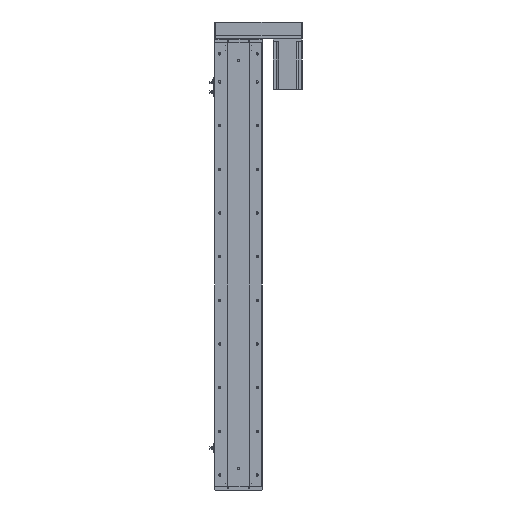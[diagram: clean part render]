
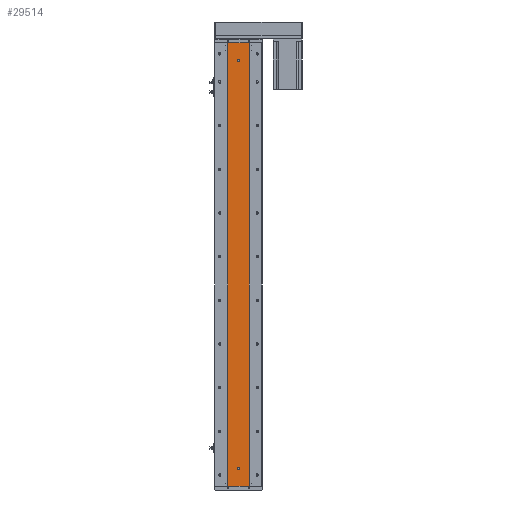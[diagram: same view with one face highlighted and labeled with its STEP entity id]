
A CAD part, left-side view. The second image highlights one B-rep face of the part: STEP entity #29514.
In plain terms, the highlighted planar face has unit normal (-1, 0, 0).
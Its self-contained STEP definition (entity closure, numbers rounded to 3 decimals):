
#791 = AXIS2_PLACEMENT_3D ( 'NONE', #42091, #18692, #45998 ) ;
#1902 = DIRECTION ( 'NONE',  ( -1., 0., 0. ) ) ;
#2943 = EDGE_LOOP ( 'NONE', ( #42405, #25662 ) ) ;
#3465 = VERTEX_POINT ( 'NONE', #31893 ) ;
#3899 = CARTESIAN_POINT ( 'NONE',  ( -24.994, 0., 1169. ) ) ;
#3965 = CARTESIAN_POINT ( 'NONE',  ( -24.994, 0., 50. ) ) ;
#4138 = DIRECTION ( 'NONE',  ( 0., 0., -1. ) ) ;
#5696 = DIRECTION ( 'NONE',  ( -1., 0., 0. ) ) ;
#7689 = EDGE_CURVE ( 'NONE', #30910, #3465, #43790, .T. ) ;
#7814 = DIRECTION ( 'NONE',  ( 0., 0., 1. ) ) ;
#7893 = DIRECTION ( 'NONE',  ( 0., 0., 1. ) ) ;
#8519 = AXIS2_PLACEMENT_3D ( 'NONE', #29081, #5696, #32990 ) ;
#8663 = CARTESIAN_POINT ( 'NONE',  ( -24.994, 0., 47. ) ) ;
#8813 = VERTEX_POINT ( 'NONE', #41380 ) ;
#10026 = CIRCLE ( 'NONE', #8519, 3. ) ;
#10316 = DIRECTION ( 'NONE',  ( 0., -1., 0. ) ) ;
#10914 = CARTESIAN_POINT ( 'NONE',  ( -24.994, -29.785, 1219. ) ) ;
#12294 = CARTESIAN_POINT ( 'NONE',  ( -24.994, 29.785, 1219. ) ) ;
#12323 = VERTEX_POINT ( 'NONE', #15025 ) ;
#13292 = CIRCLE ( 'NONE', #36584, 3. ) ;
#13849 = VECTOR ( 'NONE', #10316, 1000. ) ;
#13987 = VERTEX_POINT ( 'NONE', #8663 ) ;
#15025 = CARTESIAN_POINT ( 'NONE',  ( -24.994, -29.785, 1219. ) ) ;
#18089 = VECTOR ( 'NONE', #36126, 1000. ) ;
#18514 = EDGE_CURVE ( 'NONE', #21382, #12323, #40105, .T. ) ;
#18692 = DIRECTION ( 'NONE',  ( 1., 0., 0. ) ) ;
#19931 = EDGE_CURVE ( 'NONE', #37130, #8813, #38648, .T. ) ;
#21382 = VERTEX_POINT ( 'NONE', #12294 ) ;
#22150 = ORIENTED_EDGE ( 'NONE', *, *, #7689, .T. ) ;
#24880 = ORIENTED_EDGE ( 'NONE', *, *, #34510, .F. ) ;
#25260 = CARTESIAN_POINT ( 'NONE',  ( -24.994, 0., 1169. ) ) ;
#25662 = ORIENTED_EDGE ( 'NONE', *, *, #45841, .F. ) ;
#25918 = EDGE_CURVE ( 'NONE', #8813, #37130, #13292, .T. ) ;
#27005 = CARTESIAN_POINT ( 'NONE',  ( -24.994, 0., 53. ) ) ;
#27511 = CARTESIAN_POINT ( 'NONE',  ( -24.994, 29.785, 1219. ) ) ;
#29081 = CARTESIAN_POINT ( 'NONE',  ( -24.994, 0., 50. ) ) ;
#29179 = DIRECTION ( 'NONE',  ( 0., 0., 1. ) ) ;
#29202 = FACE_BOUND ( 'NONE', #37804, .T. ) ;
#29448 = CARTESIAN_POINT ( 'NONE',  ( -24.994, 0., 1172. ) ) ;
#29514 = ADVANCED_FACE ( 'NONE', ( #29202, #48726, #38362 ), #45825, .F. ) ;
#29745 = EDGE_LOOP ( 'NONE', ( #22150, #24880, #44348, #49793 ) ) ;
#30179 = EDGE_CURVE ( 'NONE', #34051, #13987, #32122, .T. ) ;
#30910 = VERTEX_POINT ( 'NONE', #39894 ) ;
#31173 = DIRECTION ( 'NONE',  ( -1., 0., 0. ) ) ;
#31249 = DIRECTION ( 'NONE',  ( -1., 0., 0. ) ) ;
#31878 = AXIS2_PLACEMENT_3D ( 'NONE', #3965, #31249, #7893 ) ;
#31893 = CARTESIAN_POINT ( 'NONE',  ( -24.994, -29.785, 0. ) ) ;
#32015 = AXIS2_PLACEMENT_3D ( 'NONE', #3899, #31173, #7814 ) ;
#32122 = CIRCLE ( 'NONE', #31878, 3. ) ;
#32700 = CARTESIAN_POINT ( 'NONE',  ( -24.994, 29.785, 1219. ) ) ;
#32990 = DIRECTION ( 'NONE',  ( 0., 0., 1. ) ) ;
#33676 = CARTESIAN_POINT ( 'NONE',  ( -24.994, 29.785, 0. ) ) ;
#34051 = VERTEX_POINT ( 'NONE', #27005 ) ;
#34510 = EDGE_CURVE ( 'NONE', #12323, #3465, #40647, .T. ) ;
#36126 = DIRECTION ( 'NONE',  ( 0., -1., 0. ) ) ;
#36584 = AXIS2_PLACEMENT_3D ( 'NONE', #25260, #1902, #29179 ) ;
#37130 = VERTEX_POINT ( 'NONE', #29448 ) ;
#37804 = EDGE_LOOP ( 'NONE', ( #43979, #45067 ) ) ;
#38362 = FACE_OUTER_BOUND ( 'NONE', #29745, .T. ) ;
#38648 = CIRCLE ( 'NONE', #32015, 3. ) ;
#39426 = VECTOR ( 'NONE', #49964, 1000. ) ;
#39842 = EDGE_CURVE ( 'NONE', #21382, #30910, #41917, .T. ) ;
#39894 = CARTESIAN_POINT ( 'NONE',  ( -24.994, 29.785, 0. ) ) ;
#40105 = LINE ( 'NONE', #32700, #18089 ) ;
#40647 = LINE ( 'NONE', #10914, #39426 ) ;
#40700 = VECTOR ( 'NONE', #4138, 1000. ) ;
#41380 = CARTESIAN_POINT ( 'NONE',  ( -24.994, 0., 1166. ) ) ;
#41917 = LINE ( 'NONE', #27511, #40700 ) ;
#42091 = CARTESIAN_POINT ( 'NONE',  ( -24.994, 29.785, 1219. ) ) ;
#42405 = ORIENTED_EDGE ( 'NONE', *, *, #30179, .F. ) ;
#43790 = LINE ( 'NONE', #33676, #13849 ) ;
#43979 = ORIENTED_EDGE ( 'NONE', *, *, #19931, .F. ) ;
#44348 = ORIENTED_EDGE ( 'NONE', *, *, #18514, .F. ) ;
#45067 = ORIENTED_EDGE ( 'NONE', *, *, #25918, .F. ) ;
#45825 = PLANE ( 'NONE',  #791 ) ;
#45841 = EDGE_CURVE ( 'NONE', #13987, #34051, #10026, .T. ) ;
#45998 = DIRECTION ( 'NONE',  ( 0., 0., -1. ) ) ;
#48726 = FACE_BOUND ( 'NONE', #2943, .T. ) ;
#49793 = ORIENTED_EDGE ( 'NONE', *, *, #39842, .T. ) ;
#49964 = DIRECTION ( 'NONE',  ( 0., 0., -1. ) ) ;
